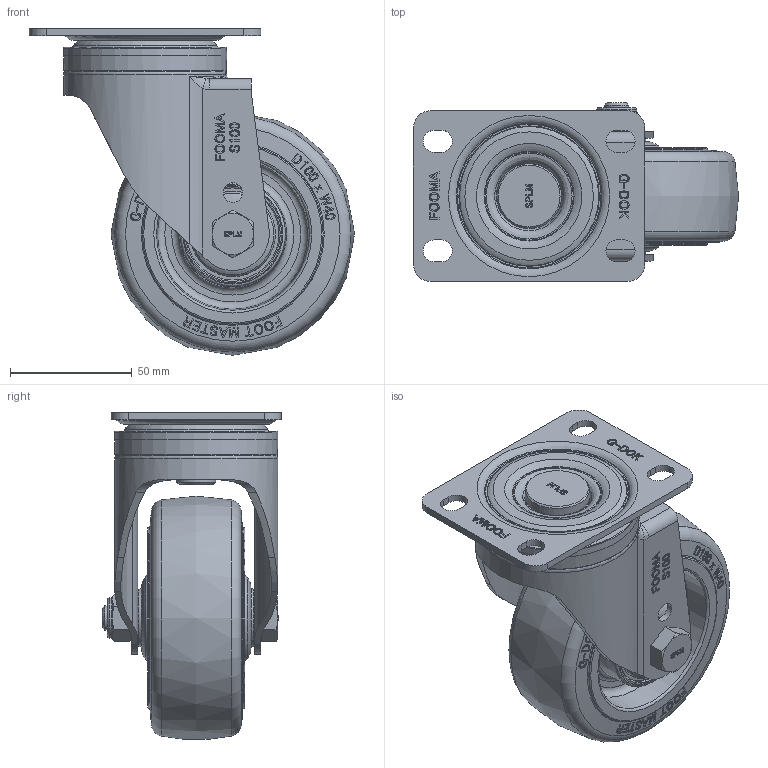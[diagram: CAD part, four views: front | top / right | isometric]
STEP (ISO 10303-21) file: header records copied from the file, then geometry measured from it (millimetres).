
FILE_DESCRIPTION(/* description */ (''),/* implementation_level */ '2;1');
FILE_NAME(/* name */ '\\192.168.10.38\지덕공유\1.기술연구소\2.연구개발 진행중\98.스테인레스캐스터 개발건_2023.10.26\제품설계\3D\홈페이지용\SPLM-100-ASF-HRD.stp',/* time_stamp */ '2025-02-20T13:36:33+09:00',/* author */ ('admin'),/* organization */ ('지덕산업'),/* preprocessor_version */ 'ST-DEVELOPER v18.1',/* originating_system */ 'Autodesk Inventor 2021',/* authorisation */ '');
FILE_SCHEMA (('CONFIG_CONTROL_DESIGN'));
Products named in the file (1): SPLM-100-ASF_HRD
Bounding box: 133.5 x 73.5 x 134.13 mm (x, y, z)
Volume: 363685.6 mm3; surface area: 76484.9 mm2
Topology: 1 solids, 1 shells, 1285 faces, 3450 edges, 2278 vertices
Faces by surface type: plane 586, bspline 456, cylinder 100, cone 95, torus 48
Full cylindrical faces by diameter (mm): 8 x2, 10 x1, 11 x1, 16 x2, 16.5 x1, 26.6 x1, 30 x1, 40.105 x1, 40.971 x1, 54 x1, 67 x1
Entity records: 43830 total; most frequent: CARTESIAN_POINT 15963, ORIENTED_EDGE 6892, DIRECTION 4014, EDGE_CURVE 3446, VERTEX_POINT 2278, LINE 1608, VECTOR 1608, EDGE_LOOP 1414
